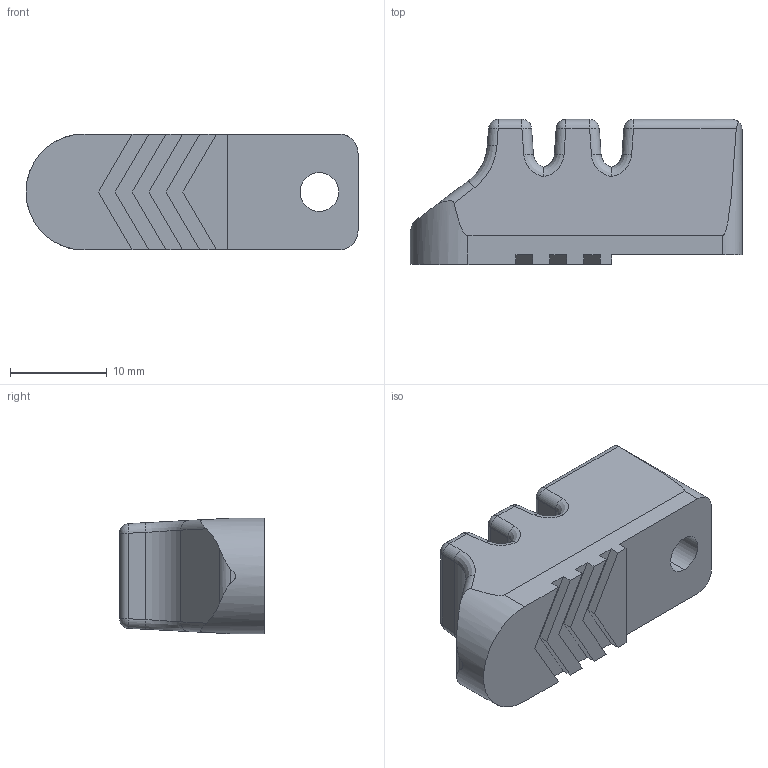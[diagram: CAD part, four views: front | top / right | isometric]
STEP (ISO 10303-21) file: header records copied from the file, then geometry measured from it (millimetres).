
FILE_DESCRIPTION (( 'STEP AP214' ), '1' );
FILE_NAME ('C3.STEP', '2019-12-04T07:22:07', ( '微软用户' ), ( '微软中国' ), 'SwSTEP 2.0', 'SolidWorks 2016', '' );
FILE_SCHEMA (( 'AUTOMOTIVE_DESIGN' ));
Length unit declared in the file: millimetre
Products named in the file (1): C3
Bounding box: 34.35 x 15 x 12 mm (x, y, z)
Volume: 4465.3 mm3; surface area: 2185.8 mm2
Topology: 1 solids, 1 shells, 91 faces, 221 edges, 132 vertices
Faces by surface type: plane 36, cylinder 35, sphere 10, bspline 10
Entity records: 4321 total; most frequent: CARTESIAN_POINT 1274, ORIENTED_EDGE 442, DIRECTION 393, EDGE_CURVE 221, VERTEX_POINT 132, LINE 131, VECTOR 131, AXIS2_PLACEMENT_3D 131
